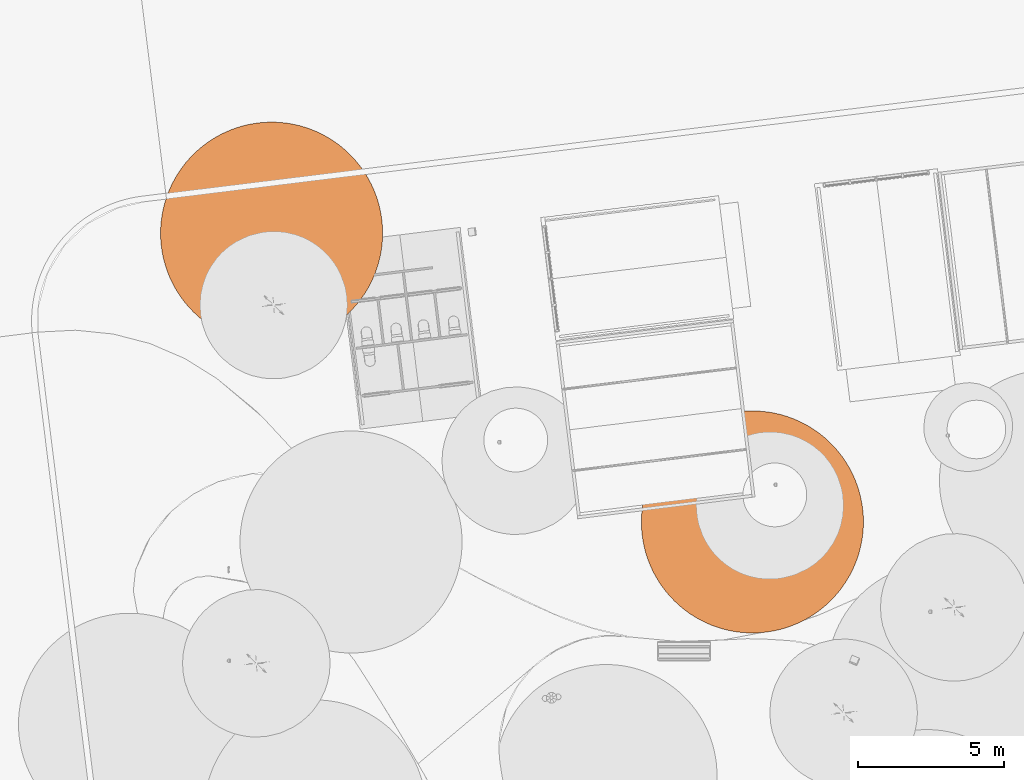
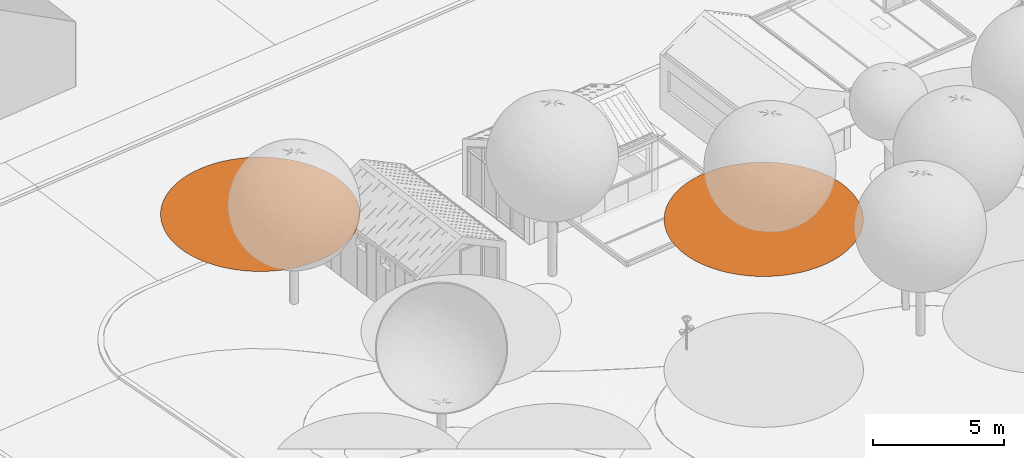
# One storey, part 74 of 75: 2 proxies.
"""IFC2X3 building model written with IfcOpenShell, lengths in metres."""

from ifc_helpers import new_model, entity, si_unit, converted_unit, derived_unit, direction, frame, origin, place, context, subcontext, project, spatial, face_set, surface_model, source, transform, mapped, material, type_object, type_shapes, element, save


model = new_model("IFC2X3")

# Units and contexts
model_context = context("Model", 3, precision=1e-05, world=origin(), true_north=direction((6.123031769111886e-17, 1.0)))
body_context = subcontext(model_context, "Body", "Model", "MODEL_VIEW")
ifc_project = project(units=[si_unit("LENGTHUNIT", "METRE"), si_unit("AREAUNIT", "SQUARE_METRE"), si_unit("VOLUMEUNIT", "CUBIC_METRE"), converted_unit("PLANEANGLEUNIT", "DEGREE", entity("IfcRatioMeasure", 0.017453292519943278), si_unit("PLANEANGLEUNIT", "RADIAN"), dimensions=[0, 0, 0, 0, 0, 0, 0]), si_unit("MASSUNIT", "GRAM", prefix="KILO"), derived_unit("MASSDENSITYUNIT", [(si_unit("MASSUNIT", "GRAM", prefix="KILO"), 1), (si_unit("LENGTHUNIT", "METRE"), -3)]), derived_unit("IONCONCENTRATIONUNIT", [(si_unit("MASSUNIT", "GRAM", prefix="KILO"), 1), (si_unit("LENGTHUNIT", "METRE"), -3)]), derived_unit("MOMENTOFINERTIAUNIT", [(si_unit("LENGTHUNIT", "METRE"), 4)]), si_unit("TIMEUNIT", "SECOND"), si_unit("FREQUENCYUNIT", "HERTZ"), si_unit("THERMODYNAMICTEMPERATUREUNIT", "DEGREE_CELSIUS"), derived_unit("THERMALTRANSMITTANCEUNIT", [(si_unit("MASSUNIT", "GRAM", prefix="KILO"), 1), (si_unit("THERMODYNAMICTEMPERATUREUNIT", "KELVIN"), -1), (si_unit("TIMEUNIT", "SECOND"), -3)]), derived_unit("THERMALCONDUCTANCEUNIT", [(si_unit("MASSUNIT", "GRAM", prefix="KILO"), 1), (si_unit("THERMODYNAMICTEMPERATUREUNIT", "KELVIN"), -1), (si_unit("TIMEUNIT", "SECOND"), -3), (si_unit("LENGTHUNIT", "METRE"), 1)]), derived_unit("VOLUMETRICFLOWRATEUNIT", [(si_unit("LENGTHUNIT", "METRE"), 3), (si_unit("TIMEUNIT", "SECOND"), -1)]), derived_unit("MASSFLOWRATEUNIT", [(si_unit("MASSUNIT", "GRAM", prefix="KILO"), 1), (si_unit("TIMEUNIT", "SECOND"), -1)]), derived_unit("ROTATIONALFREQUENCYUNIT", [(si_unit("TIMEUNIT", "SECOND"), -1)]), si_unit("ELECTRICCURRENTUNIT", "AMPERE"), si_unit("ELECTRICVOLTAGEUNIT", "VOLT"), si_unit("POWERUNIT", "WATT"), si_unit("FORCEUNIT", "NEWTON", prefix="KILO"), si_unit("ILLUMINANCEUNIT", "LUX"), si_unit("LUMINOUSFLUXUNIT", "LUMEN"), si_unit("LUMINOUSINTENSITYUNIT", "CANDELA"), derived_unit("USERDEFINED", [(si_unit("MASSUNIT", "GRAM", prefix="KILO"), -1), (si_unit("LENGTHUNIT", "METRE"), -2), (si_unit("TIMEUNIT", "SECOND"), 3), (si_unit("LUMINOUSFLUXUNIT", "LUMEN"), 1)]), derived_unit("USERDEFINED", [(si_unit("MASSUNIT", "GRAM", prefix="KILO"), 1), (si_unit("TIMEUNIT", "SECOND"), -3), (si_unit("LENGTHUNIT", "METRE"), 3), (si_unit("ELECTRICCURRENTUNIT", "AMPERE"), -2)]), derived_unit("SOUNDPOWERUNIT", [(si_unit("MASSUNIT", "GRAM", prefix="KILO"), 1), (si_unit("TIMEUNIT", "SECOND"), -3), (si_unit("LENGTHUNIT", "METRE"), 2)]), derived_unit("SOUNDPRESSUREUNIT", [(si_unit("MASSUNIT", "GRAM", prefix="KILO"), 1), (si_unit("LENGTHUNIT", "METRE"), -1), (si_unit("TIMEUNIT", "SECOND"), -2)]), derived_unit("LINEARVELOCITYUNIT", [(si_unit("LENGTHUNIT", "METRE"), 1), (si_unit("TIMEUNIT", "SECOND"), -1)]), si_unit("PRESSUREUNIT", "PASCAL"), derived_unit("USERDEFINED", [(si_unit("MASSUNIT", "GRAM", prefix="KILO"), 1), (si_unit("LENGTHUNIT", "METRE"), -2), (si_unit("TIMEUNIT", "SECOND"), -2)]), derived_unit("LINEARFORCEUNIT", [(si_unit("MASSUNIT", "GRAM", prefix="KILO"), 1), (si_unit("TIMEUNIT", "SECOND"), -2)]), derived_unit("PLANARFORCEUNIT", [(si_unit("MASSUNIT", "GRAM", prefix="KILO"), 1), (si_unit("LENGTHUNIT", "METRE"), -1), (si_unit("TIMEUNIT", "SECOND"), -2)]), derived_unit("SPECIFICHEATCAPACITYUNIT", [(si_unit("THERMODYNAMICTEMPERATUREUNIT", "KELVIN"), -1), (si_unit("LENGTHUNIT", "METRE"), 2), (si_unit("TIMEUNIT", "SECOND"), -2)]), derived_unit("HEATINGVALUEUNIT", [(si_unit("LENGTHUNIT", "METRE"), 2), (si_unit("TIMEUNIT", "SECOND"), -2)]), derived_unit("VAPORPERMEABILITYUNIT", [(si_unit("LENGTHUNIT", "METRE"), -1), (si_unit("TIMEUNIT", "SECOND"), 1)]), derived_unit("DYNAMICVISCOSITYUNIT", [(si_unit("MASSUNIT", "GRAM", prefix="KILO"), 1), (si_unit("TIMEUNIT", "SECOND"), -1), (si_unit("LENGTHUNIT", "METRE"), -1)]), derived_unit("THERMALEXPANSIONCOEFFICIENTUNIT", [(si_unit("THERMODYNAMICTEMPERATUREUNIT", "KELVIN"), -1)]), derived_unit("MODULUSOFELASTICITYUNIT", [(si_unit("MASSUNIT", "GRAM", prefix="KILO"), 1), (si_unit("LENGTHUNIT", "METRE"), -1), (si_unit("TIMEUNIT", "SECOND"), -2)]), derived_unit("ISOTHERMALMOISTURECAPACITYUNIT", [(si_unit("LENGTHUNIT", "METRE"), 3), (si_unit("MASSUNIT", "GRAM", prefix="KILO"), -1)]), derived_unit("MOISTUREDIFFUSIVITYUNIT", [(si_unit("TIMEUNIT", "SECOND"), -1), (si_unit("LENGTHUNIT", "METRE"), 2)])], contexts=[model_context])

# Site, building, storey
site_placement = place(None, origin())
site = spatial("IfcSite", under=ifc_project, at=site_placement, Name="Default", CompositionType="ELEMENT")
building_placement = place(site_placement, origin())
building = spatial("IfcBuilding", under=site, at=building_placement, Name="Projeto", CompositionType="ELEMENT")
storey_placement = place(building_placement, origin())
storey = spatial("IfcBuildingStorey", under=building, at=storey_placement, Name="Nível 1", CompositionType="ELEMENT", Elevation=0.0)

# Proxies
ifc_material = material(Name="<Unnamed>")
building_element_proxy_type = type_object("IfcBuildingElementProxyType", Name="Arvore simplificada:Arvore simplificada", PredefinedType="NOTDEFINED", material=ifc_material)
shared_shape = source(origin(), body_context, "Body", "SurfaceModel", [
    surface_model("IfcFaceBasedSurfaceModel", [(-3.9544974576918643, -0.18317979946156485, 0.0), (-3.9483138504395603, -0.3996342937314, 0.0), (-3.929783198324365, -0.6153827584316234, 0.0), (-3.8989659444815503, -0.8297214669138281, 0.0), (-3.855962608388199, -1.0419512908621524, 0.0), (-3.8009134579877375, -1.2513799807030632, 0.0), (-3.733998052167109, -1.4573244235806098, 0.0), (-3.655434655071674, -1.6591128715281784, 0.0), (-3.5654795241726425, -1.8560871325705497, 0.0), (-3.4644260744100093, -2.0476047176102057, 0.0), (-3.3526039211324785, -2.2330409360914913, 0.0), (-3.2303778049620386, -2.411790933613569, 0.0), (-3.098146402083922, -2.583271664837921, 0.0), (-2.9563410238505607, -2.7469237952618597, 0.0), (-2.8054242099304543, -2.9022135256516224, 0.0), (-2.6458882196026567, -3.048634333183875, 0.0), (-2.4782534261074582, -3.1857086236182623, 0.0), (-2.3030666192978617, -3.3129892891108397, 0.0), (-2.12089922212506, -3.430061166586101, 0.0), (-1.93234542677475, -3.5365423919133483, 0.0), (-1.7380202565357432, -3.632085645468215, 0.0), (-1.5385575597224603, -3.7163792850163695, 0.0), (-1.3346079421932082, -3.789148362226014, 0.0), (-1.1268366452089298, -3.8501555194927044, 0.0), (-0.9159213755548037, -3.8992017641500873, 0.0), (-0.7025500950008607, -3.9361271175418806, 0.0), (-0.48741877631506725, -3.9608111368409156, 0.0), (-0.2712291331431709, -3.9731733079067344, 0.0), (-0.054686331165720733, -3.9731733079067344, 0.0), (0.16150331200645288, -3.9608111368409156, 0.0), (0.3766346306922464, -3.9361271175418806, 0.0), (0.5900059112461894, -3.8992017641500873, 0.0), (0.8009211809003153, -3.8501555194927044, 0.0), (1.0086924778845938, -3.789148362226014, 0.0), (1.212642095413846, -3.7163792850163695, 0.0), (1.4121047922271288, -3.632085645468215, 0.0), (1.6064299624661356, -3.5365423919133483, 0.0), (1.7949837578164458, -3.430061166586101, 0.0), (1.9771511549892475, -3.3129892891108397, 0.0), (2.152337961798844, -3.1857086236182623, 0.0), (2.3199727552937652, -3.048634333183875, 0.0), (2.479508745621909, -2.9022135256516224, 0.0), (2.6304255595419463, -2.7469237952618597, 0.0), (2.7722309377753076, -2.583271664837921, 0.0), (2.9044623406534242, -2.411790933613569, 0.0), (3.026688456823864, -2.2330409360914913, 0.0), (3.138510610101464, -2.0476047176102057, 0.0), (3.239564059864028, -1.8560871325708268, 0.0), (3.3295191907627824, -1.6591128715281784, 0.0), (3.4080825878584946, -1.4573244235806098, 0.0), (3.474997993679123, -1.2513799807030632, 0.0), (3.5300471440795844, -1.0419512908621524, 0.0), (3.573050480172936, -0.8297214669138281, 0.0), (3.6038677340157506, -0.6153827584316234, 0.0), (3.622398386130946, -0.3996342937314, 0.0), (3.62858199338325, -0.18317979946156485, 0.0), (3.622398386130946, 0.03327469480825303, 0.0), (3.6038677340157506, 0.24902315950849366, 0.0), (3.573050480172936, 0.4633618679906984, 0.0), (3.5300471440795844, 0.6755916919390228, 0.0), (3.474997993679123, 0.8850203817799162, 0.0), (3.4080825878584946, 1.0909648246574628, 0.0), (3.3295191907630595, 1.2927532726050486, 0.0), (3.239564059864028, 1.4897275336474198, 0.0), (3.138510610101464, 1.6812451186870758, 0.0), (3.026688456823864, 1.8666813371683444, 0.0), (2.9044623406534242, 2.0454313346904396, 0.0), (2.7722309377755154, 2.2169120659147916, 0.0), (2.6304255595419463, 2.38056419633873, 0.0), (2.479508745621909, 2.535853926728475, 0.0), (2.3199727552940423, 2.682274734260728, 0.0), (2.152337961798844, 2.819349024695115, 0.0), (1.9771511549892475, 2.946629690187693, 0.0), (1.7949837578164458, 3.063701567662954, 0.0), (1.6064299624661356, 3.1701827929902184, 0.0), (1.4121047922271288, 3.265726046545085, 0.0), (1.212642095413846, 3.3500196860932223, 0.0), (1.0086924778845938, 3.422788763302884, 0.0), (0.8009211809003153, 3.4837959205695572, 0.0), (0.5900059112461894, 3.5328421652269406, 0.0), (0.3766346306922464, 3.5697675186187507, 0.0), (0.16150331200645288, 3.5944515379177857, 0.0), (-0.05468633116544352, 3.606813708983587, 0.0), (-0.27122913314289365, 3.606813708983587, 0.0), (-0.48741877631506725, 3.5944515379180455, 0.0), (-0.7025500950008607, 3.5697675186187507, 0.0), (-0.9159213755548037, 3.5328421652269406, 0.0), (-1.1268366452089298, 3.4837959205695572, 0.0), (-1.3346079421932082, 3.422788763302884, 0.0), (-1.5385575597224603, 3.3500196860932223, 0.0), (-1.7380202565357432, 3.265726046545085, 0.0), (-1.93234542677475, 3.1701827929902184, 0.0), (-2.12089922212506, 3.063701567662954, 0.0), (-2.3030666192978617, 2.946629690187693, 0.0), (-2.4782534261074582, 2.819349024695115, 0.0), (-2.6458882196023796, 2.682274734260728, 0.0), (-2.8054242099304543, 2.535853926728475, 0.0), (-2.9563410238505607, 2.38056419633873, 0.0), (-3.098146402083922, 2.2169120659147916, 0.0), (-3.2303778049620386, 2.0454313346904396, 0.0), (-3.3526039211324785, 1.8666813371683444, 0.0), (-3.4644260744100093, 1.6812451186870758, 0.0), (-3.5654795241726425, 1.4897275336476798, 0.0), (-3.6554346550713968, 1.2927532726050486, 0.0), (-3.733998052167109, 1.0909648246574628, 0.0), (-3.8009134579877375, 0.8850203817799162, 0.0), (-3.855962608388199, 0.6755916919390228, 0.0), (-3.8989659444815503, 0.4633618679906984, 0.0), (-3.929783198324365, 0.24902315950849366, 0.0), (-3.9483138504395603, 0.03327469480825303, 0.0)], [face_set([[[0, 1, 2, 3, 4, 5, 6, 7, 8, 9, 10, 11, 12, 13, 14, 15, 16, 17, 18, 19, 20, 21, 22, 23, 24, 25, 26, 27, 28, 29, 30, 31, 32, 33, 34, 35, 36, 37, 38, 39, 40, 41, 42, 43, 44, 45, 46, 47, 48, 49, 50, 51, 52, 53, 54, 55, 56, 57, 58, 59, 60, 61, 62, 63, 64, 65, 66, 67, 68, 69, 70, 71, 72, 73, 74, 75, 76, 77, 78, 79, 80, 81, 82, 83, 84, 85, 86, 87, 88, 89, 90, 91, 92, 93, 94, 95, 96, 97, 98, 99, 100, 101, 102, 103, 104, 105, 106, 107, 108, 109]]])]),
])
type_shapes(building_element_proxy_type, [shared_shape])
for number, where, z_axis, x_axis in (
    (1, (-4.663269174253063, 23.015498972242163, 0.0), (0.0, 0.0, 1.0), (0.9422539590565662, 0.3348992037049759, 0.0)),
    (2, (-21.082044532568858, 32.87780202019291, 0.0), (0.0, 0.0, 1.0), (0.9422539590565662, 0.3348992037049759, 0.0)),
):
    element("IfcBuildingElementProxy", number, at=place(storey_placement, frame(where, z_axis=z_axis, x_axis=x_axis)), inside=storey, type_object=building_element_proxy_type, material=ifc_material, Name="Arvore simplificada:Arvore simplificada", ObjectType="Arvore simplificada:Arvore simplificada", context=body_context, shape_type="MappedRepresentation", body=[
        mapped(shared_shape, transform((0.0, 0.0, 0.0), scale=1.0)),
    ])

save(model, "model.ifc")
